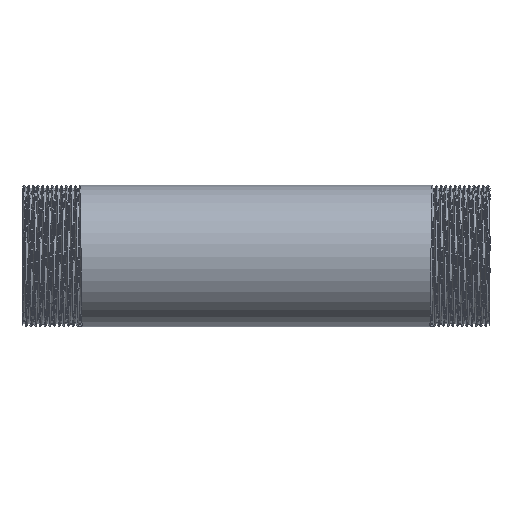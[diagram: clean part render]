
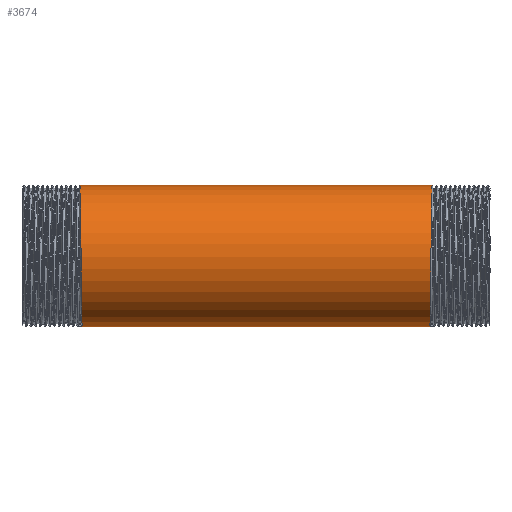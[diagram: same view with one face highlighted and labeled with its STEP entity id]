
A CAD part, front view. The second image highlights one B-rep face of the part: STEP entity #3674.
In plain terms, the highlighted cylindrical face has radius 30.15 mm (diameter 60.3 mm), a partial arc.
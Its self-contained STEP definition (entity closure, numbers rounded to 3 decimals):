
#46 = CARTESIAN_POINT ( 'NONE',  ( 74.55, -25.647, -18.634 ) ) ;
#412 = ORIENTED_EDGE ( 'NONE', *, *, #4676, .F. ) ;
#892 = CARTESIAN_POINT ( 'NONE',  ( 75.15, -9.796, 30.15 ) ) ;
#1018 = CARTESIAN_POINT ( 'NONE',  ( 74.85, -28.674, 9.317 ) ) ;
#1177 = CARTESIAN_POINT ( 'NONE',  ( -74.85, -28.674, 9.317 ) ) ;
#1663 = ORIENTED_EDGE ( 'NONE', *, *, #5333, .F. ) ;
#1746 = CARTESIAN_POINT ( 'NONE',  ( 75.25, 0., 30.15 ) ) ;
#1849 = CARTESIAN_POINT ( 'NONE',  ( -149.494, 0., -30.15 ) ) ;
#1863 = CARTESIAN_POINT ( 'NONE',  ( -149.494, 0., 30.15 ) ) ;
#2023 = DIRECTION ( 'NONE',  ( 0., 0., 1. ) ) ;
#2090 = VERTEX_POINT ( 'NONE', #8100 ) ;
#2162 = VECTOR ( 'NONE', #3843, 1000. ) ;
#2252 = VERTEX_POINT ( 'NONE', #1746 ) ;
#2270 = CARTESIAN_POINT ( 'NONE',  ( -74.65, -28.674, -9.317 ) ) ;
#2717 =( BOUNDED_CURVE ( )  B_SPLINE_CURVE ( 2, ( #6794, #11848, #3085, #46, #8715, #10677, #1018, #6984, #8777, #892, #11716 ),
 .UNSPECIFIED., .F., .F. ) 
 B_SPLINE_CURVE_WITH_KNOTS ( ( 3, 2, 2, 2, 2, 3 ),
 ( 0., 0.007, 0.013, 0.02, 0.027, 0.033 ),
 .UNSPECIFIED. ) 
 CURVE ( )  GEOMETRIC_REPRESENTATION_ITEM ( )  RATIONAL_B_SPLINE_CURVE ( ( 1., 0.951, 1., 0.951, 1., 0.951, 1., 0.951, 1., 0.951, 1. ) ) 
 REPRESENTATION_ITEM ( '' )  );
#2799 =( BOUNDED_CURVE ( )  B_SPLINE_CURVE ( 2, ( #6049, #11027, #5219, #9933, #2270, #6951, #1177, #6176, #10056, #11087, #10832 ),
 .UNSPECIFIED., .F., .F. ) 
 B_SPLINE_CURVE_WITH_KNOTS ( ( 3, 2, 2, 2, 2, 3 ),
 ( 0., 0.007, 0.013, 0.02, 0.027, 0.033 ),
 .UNSPECIFIED. ) 
 CURVE ( )  GEOMETRIC_REPRESENTATION_ITEM ( )  RATIONAL_B_SPLINE_CURVE ( ( 1., 0.951, 1., 0.951, 1., 0.951, 1., 0.951, 1., 0.951, 1. ) ) 
 REPRESENTATION_ITEM ( '' )  );
#3025 = DIRECTION ( 'NONE',  ( -1., 0., 0. ) ) ;
#3085 = CARTESIAN_POINT ( 'NONE',  ( 74.45, -17.722, -24.392 ) ) ;
#3674 = ADVANCED_FACE ( 'NONE', ( #6709 ), #10778, .T. ) ;
#3769 = ORIENTED_EDGE ( 'NONE', *, *, #11804, .T. ) ;
#3843 = DIRECTION ( 'NONE',  ( -1., 0., 0. ) ) ;
#4225 = ORIENTED_EDGE ( 'NONE', *, *, #11550, .T. ) ;
#4676 = EDGE_CURVE ( 'NONE', #7660, #8132, #2799, .T. ) ;
#5219 = CARTESIAN_POINT ( 'NONE',  ( -74.45, -17.722, -24.392 ) ) ;
#5333 = EDGE_CURVE ( 'NONE', #2090, #7660, #10608, .T. ) ;
#6049 = CARTESIAN_POINT ( 'NONE',  ( -74.25, 0., -30.15 ) ) ;
#6176 = CARTESIAN_POINT ( 'NONE',  ( -74.95, -25.647, 18.634 ) ) ;
#6239 = AXIS2_PLACEMENT_3D ( 'NONE', #9695, #11755, #2023 ) ;
#6709 = FACE_OUTER_BOUND ( 'NONE', #9561, .T. ) ;
#6794 = CARTESIAN_POINT ( 'NONE',  ( 74.25, 0., -30.15 ) ) ;
#6951 = CARTESIAN_POINT ( 'NONE',  ( -74.75, -31.702, 0. ) ) ;
#6984 = CARTESIAN_POINT ( 'NONE',  ( 74.95, -25.647, 18.634 ) ) ;
#6986 = CARTESIAN_POINT ( 'NONE',  ( -75.25, 0., 30.15 ) ) ;
#7463 = CARTESIAN_POINT ( 'NONE',  ( -74.25, 0., -30.15 ) ) ;
#7660 = VERTEX_POINT ( 'NONE', #7463 ) ;
#8100 = CARTESIAN_POINT ( 'NONE',  ( 74.25, 0., -30.15 ) ) ;
#8132 = VERTEX_POINT ( 'NONE', #6986 ) ;
#8140 = VECTOR ( 'NONE', #3025, 1000. ) ;
#8715 = CARTESIAN_POINT ( 'NONE',  ( 74.65, -28.674, -9.317 ) ) ;
#8777 = CARTESIAN_POINT ( 'NONE',  ( 75.05, -17.722, 24.392 ) ) ;
#8840 = LINE ( 'NONE', #1863, #8140 ) ;
#9561 = EDGE_LOOP ( 'NONE', ( #1663, #3769, #4225, #412 ) ) ;
#9695 = CARTESIAN_POINT ( 'NONE',  ( -149.494, 0., 0. ) ) ;
#9933 = CARTESIAN_POINT ( 'NONE',  ( -74.55, -25.647, -18.634 ) ) ;
#10056 = CARTESIAN_POINT ( 'NONE',  ( -75.05, -17.722, 24.392 ) ) ;
#10608 = LINE ( 'NONE', #1849, #2162 ) ;
#10677 = CARTESIAN_POINT ( 'NONE',  ( 74.75, -31.702, 0. ) ) ;
#10778 = CYLINDRICAL_SURFACE ( 'NONE', #6239, 30.15 ) ;
#10832 = CARTESIAN_POINT ( 'NONE',  ( -75.25, 0., 30.15 ) ) ;
#11027 = CARTESIAN_POINT ( 'NONE',  ( -74.35, -9.796, -30.15 ) ) ;
#11087 = CARTESIAN_POINT ( 'NONE',  ( -75.15, -9.796, 30.15 ) ) ;
#11550 = EDGE_CURVE ( 'NONE', #2252, #8132, #8840, .T. ) ;
#11716 = CARTESIAN_POINT ( 'NONE',  ( 75.25, 0., 30.15 ) ) ;
#11755 = DIRECTION ( 'NONE',  ( -1., 0., 0. ) ) ;
#11804 = EDGE_CURVE ( 'NONE', #2090, #2252, #2717, .T. ) ;
#11848 = CARTESIAN_POINT ( 'NONE',  ( 74.35, -9.796, -30.15 ) ) ;
